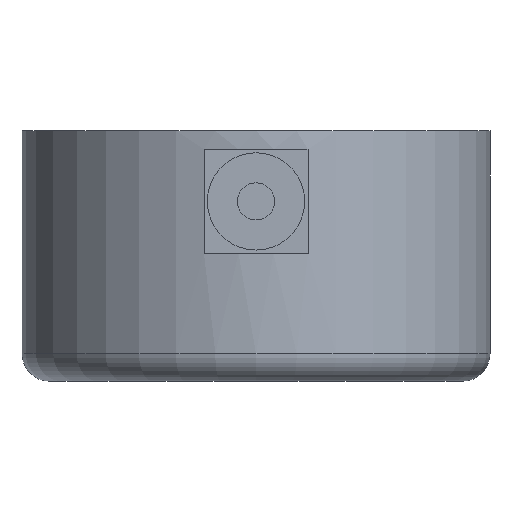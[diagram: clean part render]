
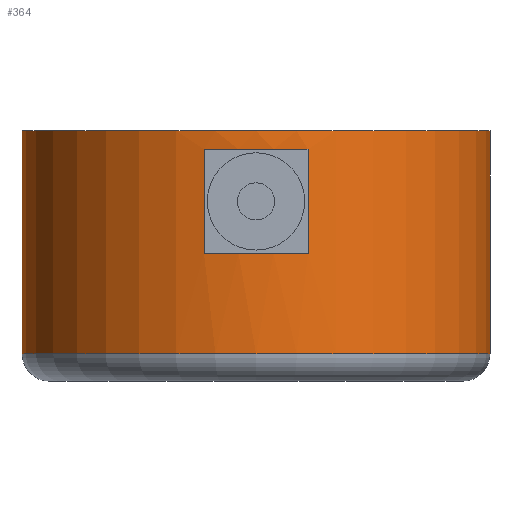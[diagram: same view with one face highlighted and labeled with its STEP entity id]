
A CAD part, front view. The second image highlights one B-rep face of the part: STEP entity #364.
In plain terms, the highlighted cylindrical face has radius 31.5 mm (diameter 63 mm), a partial arc.
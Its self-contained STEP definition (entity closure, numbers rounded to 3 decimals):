
#2 = DIRECTION ( 'NONE',  ( 0., 0., -1. ) ) ;
#5 = CIRCLE ( 'NONE', #361, 31.5 ) ;
#10 = CARTESIAN_POINT ( 'NONE',  ( 0., 0., 31.2 ) ) ;
#11 = ORIENTED_EDGE ( 'NONE', *, *, #439, .F. ) ;
#13 = VERTEX_POINT ( 'NONE', #138 ) ;
#20 = CARTESIAN_POINT ( 'NONE',  ( 31.5, 0., 33.7 ) ) ;
#24 = DIRECTION ( 'NONE',  ( 0., 0., -1. ) ) ;
#26 = LINE ( 'NONE', #139, #370 ) ;
#29 = EDGE_CURVE ( 'NONE', #253, #242, #442, .T. ) ;
#39 = CARTESIAN_POINT ( 'NONE',  ( -31.5, 0., 33.7 ) ) ;
#40 = VERTEX_POINT ( 'NONE', #401 ) ;
#49 = DIRECTION ( 'NONE',  ( 1., 0., 0. ) ) ;
#54 = FACE_BOUND ( 'NONE', #398, .T. ) ;
#56 = CARTESIAN_POINT ( 'NONE',  ( 0., 0., 33.7 ) ) ;
#60 = AXIS2_PLACEMENT_3D ( 'NONE', #223, #333, #290 ) ;
#77 = VECTOR ( 'NONE', #228, 1000. ) ;
#82 = CARTESIAN_POINT ( 'NONE',  ( 0., 0., 3.7 ) ) ;
#86 = VECTOR ( 'NONE', #2, 1000. ) ;
#91 = ORIENTED_EDGE ( 'NONE', *, *, #455, .T. ) ;
#97 = CARTESIAN_POINT ( 'NONE',  ( -31.5, 0., 3.7 ) ) ;
#102 = DIRECTION ( 'NONE',  ( -1., 0., 0. ) ) ;
#109 = CARTESIAN_POINT ( 'NONE',  ( 31.5, 0., 33.7 ) ) ;
#117 = ORIENTED_EDGE ( 'NONE', *, *, #236, .T. ) ;
#123 = AXIS2_PLACEMENT_3D ( 'NONE', #56, #24, #102 ) ;
#138 = CARTESIAN_POINT ( 'NONE',  ( 7., -30.712, 31.2 ) ) ;
#139 = CARTESIAN_POINT ( 'NONE',  ( -7., -30.712, 33.7 ) ) ;
#146 = VERTEX_POINT ( 'NONE', #456 ) ;
#157 = LINE ( 'NONE', #39, #86 ) ;
#159 = DIRECTION ( 'NONE',  ( 0., 0., 1. ) ) ;
#161 = DIRECTION ( 'NONE',  ( 0., 0., 1. ) ) ;
#163 = ORIENTED_EDGE ( 'NONE', *, *, #426, .T. ) ;
#178 = CYLINDRICAL_SURFACE ( 'NONE', #123, 31.5 ) ;
#181 = AXIS2_PLACEMENT_3D ( 'NONE', #397, #478, #247 ) ;
#221 = EDGE_CURVE ( 'NONE', #235, #384, #157, .T. ) ;
#223 = CARTESIAN_POINT ( 'NONE',  ( 0., 0., 17.2 ) ) ;
#228 = DIRECTION ( 'NONE',  ( 0., 0., -1. ) ) ;
#235 = VERTEX_POINT ( 'NONE', #469 ) ;
#236 = EDGE_CURVE ( 'NONE', #384, #146, #5, .T. ) ;
#242 = VERTEX_POINT ( 'NONE', #282 ) ;
#247 = DIRECTION ( 'NONE',  ( 1., 0., 0. ) ) ;
#253 = VERTEX_POINT ( 'NONE', #319 ) ;
#254 = LINE ( 'NONE', #109, #294 ) ;
#273 = ORIENTED_EDGE ( 'NONE', *, *, #29, .T. ) ;
#281 = EDGE_CURVE ( 'NONE', #40, #13, #394, .T. ) ;
#282 = CARTESIAN_POINT ( 'NONE',  ( -7., -30.712, 17.2 ) ) ;
#290 = DIRECTION ( 'NONE',  ( -1., 0., 0. ) ) ;
#294 = VECTOR ( 'NONE', #480, 1000. ) ;
#319 = CARTESIAN_POINT ( 'NONE',  ( 7., -30.712, 17.2 ) ) ;
#325 = ORIENTED_EDGE ( 'NONE', *, *, #281, .T. ) ;
#329 = CIRCLE ( 'NONE', #181, 31.5 ) ;
#333 = DIRECTION ( 'NONE',  ( 0., 0., -1. ) ) ;
#334 = CARTESIAN_POINT ( 'NONE',  ( 7., -30.712, 33.7 ) ) ;
#343 = VERTEX_POINT ( 'NONE', #20 ) ;
#360 = FACE_OUTER_BOUND ( 'NONE', #443, .T. ) ;
#361 = AXIS2_PLACEMENT_3D ( 'NONE', #82, #159, #465 ) ;
#364 = ADVANCED_FACE ( 'NONE', ( #360, #54 ), #178, .T. ) ;
#370 = VECTOR ( 'NONE', #441, 1000. ) ;
#384 = VERTEX_POINT ( 'NONE', #97 ) ;
#389 = EDGE_CURVE ( 'NONE', #235, #343, #329, .T. ) ;
#391 = ORIENTED_EDGE ( 'NONE', *, *, #221, .T. ) ;
#394 = CIRCLE ( 'NONE', #468, 31.5 ) ;
#397 = CARTESIAN_POINT ( 'NONE',  ( 0., 0., 33.7 ) ) ;
#398 = EDGE_LOOP ( 'NONE', ( #325, #91, #273, #163 ) ) ;
#401 = CARTESIAN_POINT ( 'NONE',  ( -7., -30.712, 31.2 ) ) ;
#415 = LINE ( 'NONE', #334, #77 ) ;
#426 = EDGE_CURVE ( 'NONE', #242, #40, #26, .T. ) ;
#433 = ORIENTED_EDGE ( 'NONE', *, *, #389, .F. ) ;
#439 = EDGE_CURVE ( 'NONE', #343, #146, #254, .T. ) ;
#441 = DIRECTION ( 'NONE',  ( 0., 0., 1. ) ) ;
#442 = CIRCLE ( 'NONE', #60, 31.5 ) ;
#443 = EDGE_LOOP ( 'NONE', ( #11, #433, #391, #117 ) ) ;
#455 = EDGE_CURVE ( 'NONE', #13, #253, #415, .T. ) ;
#456 = CARTESIAN_POINT ( 'NONE',  ( 31.5, 0., 3.7 ) ) ;
#465 = DIRECTION ( 'NONE',  ( 1., 0., 0. ) ) ;
#468 = AXIS2_PLACEMENT_3D ( 'NONE', #10, #161, #49 ) ;
#469 = CARTESIAN_POINT ( 'NONE',  ( -31.5, 0., 33.7 ) ) ;
#478 = DIRECTION ( 'NONE',  ( 0., 0., 1. ) ) ;
#480 = DIRECTION ( 'NONE',  ( 0., 0., -1. ) ) ;
